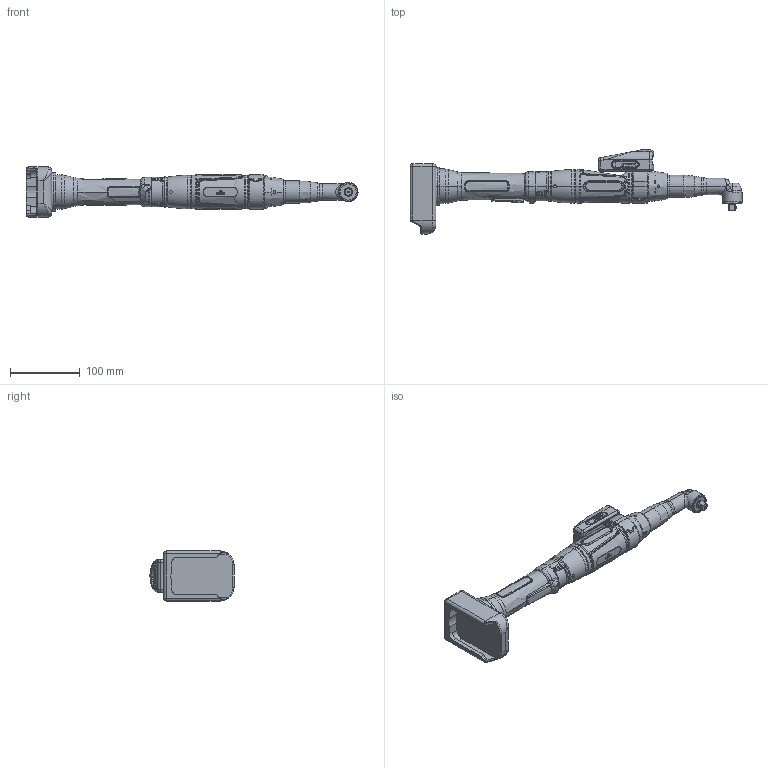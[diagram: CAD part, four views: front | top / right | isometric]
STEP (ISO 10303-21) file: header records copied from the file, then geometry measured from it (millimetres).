
FILE_DESCRIPTION (( 'STEP AP214' ), '1' );
FILE_NAME ('70122797_HSXBW1025WV38D.STEP', '2026-04-01T05:55:56', ( '' ), ( '' ), 'SwSTEP 2.0', 'SolidWorks 2020', '' );
FILE_SCHEMA (( 'AUTOMOTIVE_DESIGN' ));
Length unit declared in the file: millimetre
Products named in the file (1): 70122797_HSXBW1025WV38D
Bounding box: 477.2 x 120.8 x 72 mm (x, y, z)
Volume: 818863.4 mm3; surface area: 124927.5 mm2
Topology: 6 solids, 8 shells, 1879 faces, 4671 edges, 2859 vertices
Faces by surface type: cylinder 583, plane 528, bspline 466, torus 186, cone 86, sphere 30
Entity records: 106348 total; most frequent: CARTESIAN_POINT 44543, ORIENTED_EDGE 9274, DIRECTION 7676, EDGE_CURVE 4637, AXIS2_PLACEMENT_3D 2956, VERTEX_POINT 2856, EDGE_LOOP 1987, UNCERTAINTY_MEASURE_WITH_UNIT 1887
